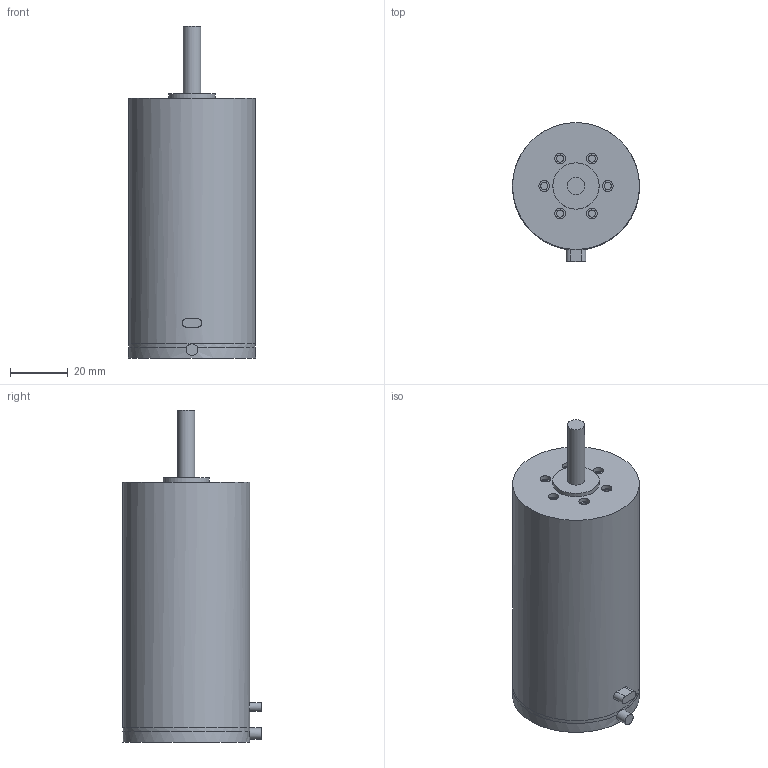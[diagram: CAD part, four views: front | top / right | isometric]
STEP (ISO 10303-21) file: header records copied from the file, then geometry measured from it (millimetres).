
FILE_DESCRIPTION((''),'2;1');
FILE_NAME('G:\Disegni\Progetti\D8500÷D8599\D8514\Motori\4490HxxxBx.stp','2013-04-22T16:01:12',('sari'),(''),'Autodesk Inventor 2012','Autodesk Inventor 2012','');
FILE_SCHEMA(('AUTOMOTIVE_DESIGN { 1 0 10303 214 1 1 1 1 }'));
Length unit declared in the file: millimetre
Products named in the file (1): 4490HxxxBx
Bounding box: 44 x 48 x 115 mm (x, y, z)
Volume: 137700.5 mm3; surface area: 16457.4 mm2
Topology: 1 solids, 1 shells, 40 faces, 79 edges, 55 vertices
Faces by surface type: cylinder 20, plane 20
Full cylindrical faces by diameter (mm): 2.459 x6, 3.7 x6, 4 x1, 6 x1, 16 x1, 44 x3
Entity records: 980 total; most frequent: CARTESIAN_POINT 206, DIRECTION 162, ORIENTED_EDGE 96, AXIS2_PLACEMENT_3D 78, EDGE_LOOP 73, EDGE_CURVE 48, VERTEX_POINT 43, FACE_OUTER_BOUND 40
